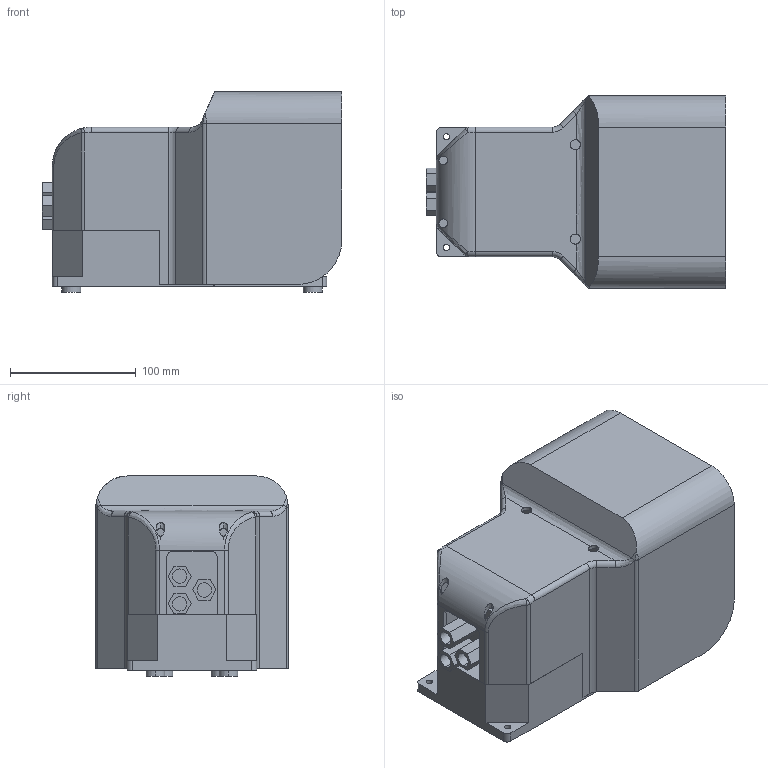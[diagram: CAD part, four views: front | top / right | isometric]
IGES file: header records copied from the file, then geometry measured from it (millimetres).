
Global section: file name: No Iges File Name specified; native system: AutoDesk Inventor R11.0; preprocessor: AutoDesk Inventor Iges Exporter R11.0; author: No Author specified; organization: No Organization specified; date: 20061219.113536; units: millimetre
Bounding box: 238 x 153 x 159 mm (x, y, z)
Volume: 1064783.3 mm3; surface area: 300332.6 mm2
Topology: 2 solids, 2 shells, 215 faces, 574 edges, 370 vertices
Faces by surface type: plane 109, cylinder 38, bspline 32, revolution 30, torus 4, sphere 2
